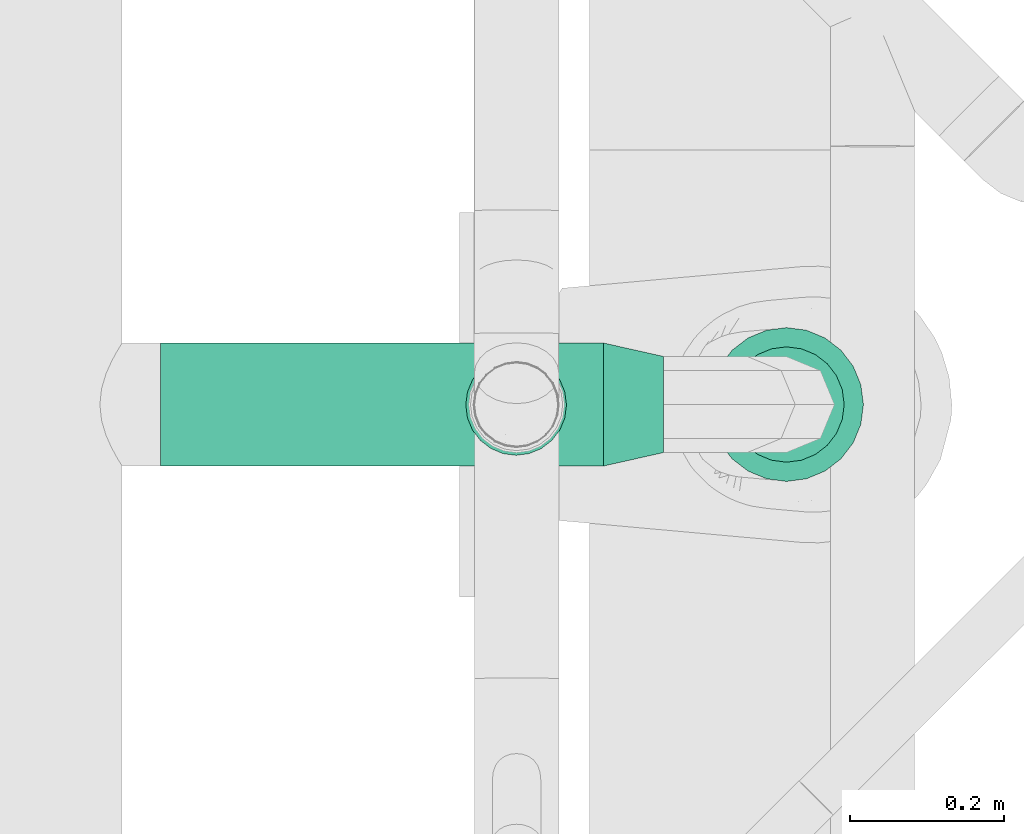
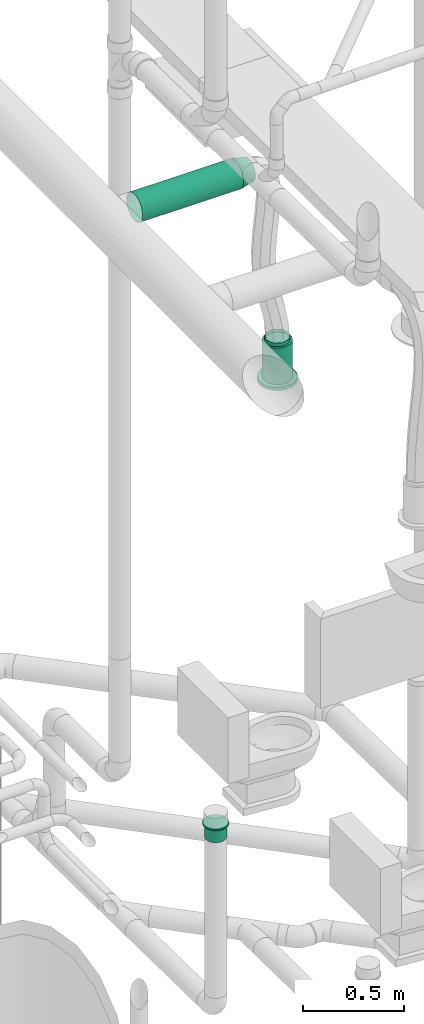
# One storey, part 128 of 374: 2 flow fittings, 1 flow segment, 1 flow terminal.
"""IFC2X3 building model written with IfcOpenShell, lengths in metres."""

from ifc_helpers import new_model, si_unit, direction, origin, place, context, subcontext, project, spatial, open_shell, surface_model, source, transform, mapped, element, save


model = new_model("IFC2X3")

# Units and contexts
model_context = context("Model", 3, precision=1e-05, world=origin(), true_north=direction((-0.4480736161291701, 0.8939966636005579)))
body_context = subcontext(model_context, "Body", "Model", "MODEL_VIEW")
ifc_project = project(units=[si_unit("LENGTHUNIT", "METRE"), si_unit("AREAUNIT", "SQUARE_METRE"), si_unit("VOLUMEUNIT", "CUBIC_METRE"), si_unit("PLANEANGLEUNIT", "RADIAN"), si_unit("THERMODYNAMICTEMPERATUREUNIT", "KELVIN"), si_unit("MASSUNIT", "GRAM", prefix="KILO"), si_unit("TIMEUNIT", "SECOND")], contexts=[model_context])

# Site, building, storey
site_placement = place(None, origin())
site = spatial("IfcSite", under=ifc_project, at=site_placement, Name="Site 1", CompositionType="ELEMENT")
building_placement = place(site_placement, origin())
building = spatial("IfcBuilding", under=site, at=building_placement, Name="Undefined", CompositionType="ELEMENT")
storey_placement = place(building_placement, origin())
storey = spatial("IfcBuildingStorey", under=building, at=storey_placement, Name="Rez de chauss\x8ee", CompositionType="ELEMENT", Elevation=0.0)

# Flow terminal
shared_shape_1 = source(origin(), body_context, "Body", "SurfaceModel", [
    surface_model("IfcFaceBasedSurfaceModel", [(0.0, 0.0, 0.0), (0.026105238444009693, 0.0, 7.105427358e-15), (0.026105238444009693, 0.020000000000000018, 7.105427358e-15), (3.552713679e-15, 0.020000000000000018, 0.0), (0.05132096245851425, 0.0, -0.00675653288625), (0.05132096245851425, 0.020000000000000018, -0.00675653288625), (0.07392876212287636, 0.0, -0.019809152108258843), (0.07392876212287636, 0.020000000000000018, -0.019809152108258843), (0.09238795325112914, 0.0, -0.03826834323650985), (0.09238795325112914, 0.020000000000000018, -0.03826834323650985), (0.10544057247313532, 0.0, -0.06087614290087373), (0.10544057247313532, 0.020000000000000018, -0.06087614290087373), (0.11219710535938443, 0.0, -0.08609186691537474), (0.11219710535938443, 0.020000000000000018, -0.08609186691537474), (0.11219710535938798, 0.0, -0.11219710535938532), (0.11219710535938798, 0.020000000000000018, -0.11219710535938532), (0.10544057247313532, 0.0, -0.13741282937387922), (0.10544057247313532, 0.020000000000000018, -0.13741282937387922), (0.09238795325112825, 0.0, -0.1600206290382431), (0.09238795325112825, 0.020000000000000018, -0.1600206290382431), (0.07392876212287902, 0.0, -0.1784798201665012), (0.07392876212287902, 0.020000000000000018, -0.1784798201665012), (0.05132096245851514, 0.0, -0.19153243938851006), (0.05132096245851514, 0.020000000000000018, -0.19153243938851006), (0.02610523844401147, 0.0, -0.19828897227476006), (0.02610523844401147, 0.020000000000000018, -0.19828897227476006), (0.0, -7.105427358e-15, -0.19828897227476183), (1.776356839e-15, 0.020000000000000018, -0.19828897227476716), (-0.02521572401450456, 0.0, -0.19153243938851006), (-0.02521572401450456, 0.020000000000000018, -0.19153243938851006), (-0.047823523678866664, 0.0, -0.1784798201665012), (-0.047823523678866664, 0.020000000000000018, -0.1784798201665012), (-0.06628271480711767, 0.0, -0.1600206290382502), (-0.06628271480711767, 0.020000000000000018, -0.1600206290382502), (-0.07933533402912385, 0.0, -0.13741282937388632), (-0.07933533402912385, 0.020000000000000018, -0.13741282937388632), (-0.08609186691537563, 0.0, -0.11219710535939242), (-0.08609186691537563, 0.020000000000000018, -0.11219710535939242), (-0.08609186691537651, 0.0, -0.08609186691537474), (-0.08609186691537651, 0.020000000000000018, -0.08609186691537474), (-0.07933533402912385, 0.0, -0.060876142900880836), (-0.07933533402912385, 0.020000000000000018, -0.060876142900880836), (-0.06628271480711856, 0.0, -0.038268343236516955), (-0.06628271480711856, 0.020000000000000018, -0.038268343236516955), (-0.04782352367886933, 0.0, -0.019809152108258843), (-0.04782352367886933, 0.020000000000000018, -0.019809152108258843), (-0.02521572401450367, 0.0, -0.00675653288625), (-0.02521572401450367, 0.020000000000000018, -0.00675653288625), (0.013052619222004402, 0.0, -0.09914448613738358), (0.013052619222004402, 0.020000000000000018, -0.09914448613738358), (0.003263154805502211, 0.020000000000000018, -0.02478612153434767), (0.022842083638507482, 0.020000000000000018, -0.024786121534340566), (0.022842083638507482, 0.2400000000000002, -0.024786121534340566), (0.0032631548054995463, 0.2400000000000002, -0.024786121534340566), (0.04175387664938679, 0.020000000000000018, -0.029853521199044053), (0.04175387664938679, 0.2400000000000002, -0.029853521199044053), (0.058709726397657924, 0.020000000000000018, -0.03964298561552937), (0.058709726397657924, 0.2400000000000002, -0.03964298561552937), (0.07255411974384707, 0.020000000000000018, -0.053487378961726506), (0.07255411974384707, 0.2400000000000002, -0.053487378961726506), (0.08234358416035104, 0.020000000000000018, -0.07044322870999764), (0.08234358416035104, 0.2400000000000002, -0.07044322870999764), (0.08741098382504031, 0.020000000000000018, -0.08935502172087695), (0.08741098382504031, 0.2400000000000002, -0.08935502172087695), (0.08741098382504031, 0.020000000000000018, -0.108933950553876), (0.08741098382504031, 0.2400000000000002, -0.108933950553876), (0.08234358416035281, 0.020000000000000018, -0.12784574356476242), (0.08234358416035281, 0.2400000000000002, -0.12784574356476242), (0.07255411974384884, 0.020000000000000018, -0.14480159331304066), (0.07255411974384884, 0.2400000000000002, -0.14480159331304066), (0.05870972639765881, 0.020000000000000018, -0.15864598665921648), (0.05870972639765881, 0.2400000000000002, -0.15864598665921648), (0.04175387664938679, 0.020000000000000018, -0.1684354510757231), (0.04175387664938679, 0.2400000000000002, -0.1684354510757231), (0.022842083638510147, 0.020000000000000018, -0.1735028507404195), (0.022842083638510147, 0.2400000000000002, -0.1735028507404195), (0.0032631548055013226, 0.020000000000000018, -0.1735028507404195), (0.0032631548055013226, 0.2400000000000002, -0.1735028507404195), (-0.015648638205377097, 0.020000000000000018, -0.168435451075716), (-0.015648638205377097, 0.2400000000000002, -0.168435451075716), (-0.032604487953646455, 0.020000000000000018, -0.1586459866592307), (-0.032604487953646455, 0.2400000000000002, -0.1586459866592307), (-0.0464488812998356, 0.020000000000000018, -0.14480159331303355), (-0.0464488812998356, 0.2400000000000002, -0.14480159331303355), (-0.05623834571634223, 0.020000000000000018, -0.1278457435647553), (-0.05623834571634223, 0.2400000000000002, -0.1278457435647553), (-0.06130574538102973, 0.020000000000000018, -0.10893395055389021), (-0.06130574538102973, 0.2400000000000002, -0.10893395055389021), (-0.06130574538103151, 0.020000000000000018, -0.08935502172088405), (-0.06130574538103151, 0.2400000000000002, -0.08935502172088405), (-0.05623834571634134, 0.020000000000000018, -0.07044322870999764), (-0.05623834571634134, 0.2400000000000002, -0.07044322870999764), (-0.046448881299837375, 0.020000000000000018, -0.0534873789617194), (-0.046448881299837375, 0.2400000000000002, -0.0534873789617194), (-0.03260448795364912, 0.020000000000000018, -0.03964298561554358), (-0.03260448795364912, 0.2400000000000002, -0.03964298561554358), (-0.015648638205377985, 0.020000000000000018, -0.029853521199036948), (-0.015648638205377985, 0.2400000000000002, -0.029853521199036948), (0.013052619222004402, 0.2400000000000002, -0.09914448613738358), (0.004894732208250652, 0.2400000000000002, -0.0371791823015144), (0.02121050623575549, 0.2400000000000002, -0.03717918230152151), (0.02121050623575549, 0.26000000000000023, -0.03717918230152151), (0.004894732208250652, 0.26000000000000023, -0.0371791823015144), (0.03697033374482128, 0.2400000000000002, -0.041402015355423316), (0.03697033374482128, 0.26000000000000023, -0.041402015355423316), (0.05110020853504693, 0.2400000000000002, -0.04955990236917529), (0.05110020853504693, 0.26000000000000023, -0.04955990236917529), (0.06263720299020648, 0.2400000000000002, -0.06109689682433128), (0.06263720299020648, 0.26000000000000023, -0.06109689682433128), (0.070795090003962, 0.2400000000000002, -0.0752267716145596), (0.070795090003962, 0.26000000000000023, -0.0752267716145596), (0.07501792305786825, 0.2400000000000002, -0.0909865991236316), (0.07501792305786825, 0.26000000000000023, -0.0909865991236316), (0.07501792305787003, 0.2400000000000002, -0.10730237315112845), (0.07501792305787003, 0.26000000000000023, -0.10730237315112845), (0.07079509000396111, 0.2400000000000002, -0.12306220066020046), (0.07079509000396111, 0.26000000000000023, -0.12306220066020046), (0.06263720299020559, 0.2400000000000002, -0.13719207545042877), (0.06263720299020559, 0.26000000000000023, -0.13719207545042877), (0.051100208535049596, 0.2400000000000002, -0.14872906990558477), (0.051100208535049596, 0.26000000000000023, -0.14872906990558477), (0.03697033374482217, 0.2400000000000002, -0.15688695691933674), (0.03697033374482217, 0.26000000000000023, -0.15688695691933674), (0.02121050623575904, 0.2400000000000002, -0.16110978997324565), (0.02121050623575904, 0.26000000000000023, -0.16110978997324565), (0.004894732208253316, 0.2400000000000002, -0.16110978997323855), (0.004894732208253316, 0.26000000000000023, -0.16110978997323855), (-0.010865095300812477, 0.2400000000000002, -0.15688695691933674), (-0.010865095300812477, 0.26000000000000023, -0.15688695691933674), (-0.02499497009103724, 0.2400000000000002, -0.14872906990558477), (-0.02499497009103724, 0.26000000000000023, -0.14872906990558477), (-0.03653196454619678, 0.2400000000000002, -0.13719207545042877), (-0.03653196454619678, 0.26000000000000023, -0.13719207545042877), (-0.04468985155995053, 0.2400000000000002, -0.12306220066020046), (-0.04468985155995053, 0.26000000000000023, -0.12306220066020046), (-0.04891268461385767, 0.2400000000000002, -0.10730237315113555), (-0.04891268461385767, 0.26000000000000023, -0.10730237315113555), (-0.04891268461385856, 0.2400000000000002, -0.0909865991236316), (-0.04891268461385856, 0.26000000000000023, -0.0909865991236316), (-0.04468985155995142, 0.2400000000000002, -0.0752267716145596), (-0.04468985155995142, 0.26000000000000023, -0.0752267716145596), (-0.036531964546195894, 0.2400000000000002, -0.06109689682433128), (-0.036531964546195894, 0.26000000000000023, -0.06109689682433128), (-0.02499497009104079, 0.2400000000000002, -0.04955990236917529), (-0.02499497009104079, 0.26000000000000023, -0.04955990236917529), (-0.010865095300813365, 0.2400000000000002, -0.041402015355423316), (-0.010865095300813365, 0.26000000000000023, -0.041402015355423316)], [open_shell([[[0, 1, 2, 3]], [[1, 4, 5, 2]], [[4, 6, 7, 5]], [[6, 8, 9, 7]], [[8, 10, 11, 9]], [[10, 12, 13, 11]], [[12, 14, 15, 13]], [[14, 16, 17, 15]], [[16, 18, 19, 17]], [[18, 20, 21, 19]], [[20, 22, 23, 21]], [[22, 24, 25, 23]], [[24, 26, 27, 25]], [[26, 28, 29, 27]], [[28, 30, 31, 29]], [[30, 32, 33, 31]], [[32, 34, 35, 33]], [[34, 36, 37, 35]], [[36, 38, 39, 37]], [[38, 40, 41, 39]], [[40, 42, 43, 41]], [[42, 44, 45, 43]], [[44, 46, 47, 45]], [[46, 0, 3, 47]], [[48, 1, 0]], [[48, 4, 1]], [[48, 6, 4]], [[48, 8, 6]], [[48, 10, 8]], [[48, 12, 10]], [[48, 14, 12]], [[48, 16, 14]], [[48, 18, 16]], [[48, 20, 18]], [[48, 22, 20]], [[48, 24, 22]], [[48, 26, 24]], [[48, 28, 26]], [[48, 30, 28]], [[48, 32, 30]], [[48, 34, 32]], [[48, 36, 34]], [[48, 38, 36]], [[48, 40, 38]], [[48, 42, 40]], [[48, 44, 42]], [[48, 46, 44]], [[48, 0, 46]], [[49, 47, 3]], [[49, 45, 47]], [[49, 43, 45]], [[49, 41, 43]], [[49, 39, 41]], [[49, 37, 39]], [[49, 35, 37]], [[49, 33, 35]], [[49, 31, 33]], [[49, 29, 31]], [[49, 27, 29]], [[49, 25, 27]], [[49, 23, 25]], [[49, 21, 23]], [[49, 19, 21]], [[49, 17, 19]], [[49, 15, 17]], [[49, 13, 15]], [[49, 11, 13]], [[49, 9, 11]], [[49, 7, 9]], [[49, 5, 7]], [[49, 2, 5]], [[49, 3, 2]], [[50, 51, 52, 53]], [[51, 54, 55, 52]], [[54, 56, 57, 55]], [[56, 58, 59, 57]], [[58, 60, 61, 59]], [[60, 62, 63, 61]], [[62, 64, 65, 63]], [[64, 66, 67, 65]], [[66, 68, 69, 67]], [[68, 70, 71, 69]], [[70, 72, 73, 71]], [[72, 74, 75, 73]], [[74, 76, 77, 75]], [[76, 78, 79, 77]], [[78, 80, 81, 79]], [[80, 82, 83, 81]], [[82, 84, 85, 83]], [[84, 86, 87, 85]], [[86, 88, 89, 87]], [[88, 90, 91, 89]], [[90, 92, 93, 91]], [[92, 94, 95, 93]], [[94, 96, 97, 95]], [[96, 50, 53, 97]], [[49, 51, 50]], [[49, 54, 51]], [[49, 56, 54]], [[49, 58, 56]], [[49, 60, 58]], [[49, 62, 60]], [[49, 64, 62]], [[49, 66, 64]], [[49, 68, 66]], [[49, 70, 68]], [[49, 72, 70]], [[49, 74, 72]], [[49, 76, 74]], [[49, 78, 76]], [[49, 80, 78]], [[49, 82, 80]], [[49, 84, 82]], [[49, 86, 84]], [[49, 88, 86]], [[49, 90, 88]], [[49, 92, 90]], [[49, 94, 92]], [[49, 96, 94]], [[49, 50, 96]], [[98, 97, 53]], [[98, 95, 97]], [[98, 93, 95]], [[98, 91, 93]], [[98, 89, 91]], [[98, 87, 89]], [[98, 85, 87]], [[98, 83, 85]], [[98, 81, 83]], [[98, 79, 81]], [[98, 77, 79]], [[98, 75, 77]], [[98, 73, 75]], [[98, 71, 73]], [[98, 69, 71]], [[98, 67, 69]], [[98, 65, 67]], [[98, 63, 65]], [[98, 61, 63]], [[98, 59, 61]], [[98, 57, 59]], [[98, 55, 57]], [[98, 52, 55]], [[98, 53, 52]], [[99, 100, 101, 102]], [[100, 103, 104, 101]], [[103, 105, 106, 104]], [[105, 107, 108, 106]], [[107, 109, 110, 108]], [[109, 111, 112, 110]], [[111, 113, 114, 112]], [[113, 115, 116, 114]], [[115, 117, 118, 116]], [[117, 119, 120, 118]], [[119, 121, 122, 120]], [[121, 123, 124, 122]], [[123, 125, 126, 124]], [[125, 127, 128, 126]], [[127, 129, 130, 128]], [[129, 131, 132, 130]], [[131, 133, 134, 132]], [[133, 135, 136, 134]], [[135, 137, 138, 136]], [[137, 139, 140, 138]], [[139, 141, 142, 140]], [[141, 143, 144, 142]], [[143, 145, 146, 144]], [[145, 99, 102, 146]]])]),
])
flow_terminal_placement = place(storey_placement, origin())
element("IfcFlowTerminal", 1, at=flow_terminal_placement, inside=storey, Name="Air diffuseur - bouche", ObjectType="Air diffuseur - bouche", context=body_context, shape_type="MappedRepresentation", body=[
    mapped(shared_shape_1, transform((57.324999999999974, 12.812500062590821, 2.48), x_axis=(0.13052619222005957, -0.9914448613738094, 0.0), y_axis=(0.0, 0.0, 1.0), z_axis=(-0.9914448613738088, -0.13052619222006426, 0.0))),
])

# Flow fitting
shared_shape_2 = source(origin(), body_context, "Body", "SurfaceModel", [
    surface_model("IfcFaceBasedSurfaceModel", [(0.0, 0.014357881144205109, -3.552713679e-15), (0.0, 0.0, 0.0), (0.07919999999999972, 4.4408921e-16, 3.552713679e-15), (0.07919999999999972, 0.014357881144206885, 3.552713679e-15), (0.0, -0.01386864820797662, -0.0037160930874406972), (0.07919999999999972, -0.013868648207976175, -0.0037160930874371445), (0.0, -0.026302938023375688, -0.010895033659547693), (0.07919999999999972, -0.026302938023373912, -0.010895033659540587), (0.0, -0.03645549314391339, -0.021047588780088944), (0.07919999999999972, -0.03645549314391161, -0.02104758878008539), (0.0, -0.04363443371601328, -0.033481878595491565), (0.07919999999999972, -0.043634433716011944, -0.03348187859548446), (0.0, -0.04735052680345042, -0.04735052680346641), (0.07919999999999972, -0.04735052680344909, -0.047350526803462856), (0.0, -0.04735052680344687, -0.06170840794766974), (0.07919999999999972, -0.047350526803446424, -0.061708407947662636), (0.0, -0.04363443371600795, -0.07557705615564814), (0.07919999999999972, -0.043634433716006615, -0.07557705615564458), (0.0, -0.03645549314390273, -0.08801134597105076), (0.07919999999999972, -0.036455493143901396, -0.08801134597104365), (0.0, -0.026302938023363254, -0.0981639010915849), (0.07919999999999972, -0.026302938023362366, -0.09816390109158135), (0.0, -0.013868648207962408, -0.1053428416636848), (0.07919999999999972, -0.01386864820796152, -0.10534284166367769), (0.0, 1.5987211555e-14, -0.10905893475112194), (0.07919999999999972, 1.6875389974e-14, -0.10905893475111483), (0.0, 0.014357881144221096, -0.10905893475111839), (0.07919999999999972, 0.014357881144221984, -0.10905893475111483), (0.0, 0.028226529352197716, -0.10534284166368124), (0.07919999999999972, 0.028226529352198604, -0.10534284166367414), (0.0, 0.040660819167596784, -0.0981639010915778), (0.07919999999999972, 0.04066081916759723, -0.0981639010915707), (0.0, 0.05081337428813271, -0.08801134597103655), (0.07919999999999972, 0.05081337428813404, -0.08801134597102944), (0.0, 0.05799231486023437, -0.07557705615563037), (0.07919999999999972, 0.05799231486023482, -0.07557705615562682), (0.0, 0.06170840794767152, -0.06170840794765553), (0.07919999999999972, 0.06170840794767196, -0.06170840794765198), (0.0, 0.061708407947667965, -0.0473505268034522), (0.07919999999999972, 0.0617084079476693, -0.047350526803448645), (0.0, 0.05799231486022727, -0.033481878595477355), (0.07919999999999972, 0.057992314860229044, -0.03348187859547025), (0.0, 0.050813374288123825, -0.021047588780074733), (0.07919999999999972, 0.05081337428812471, -0.021047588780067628), (0.0, 0.04066081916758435, -0.010895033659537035), (0.07919999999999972, 0.040660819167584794, -0.010895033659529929), (0.0, 0.028226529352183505, -0.0037160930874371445), (0.07919999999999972, 0.02822652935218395, -0.003716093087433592), (0.07919999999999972, 0.01572840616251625, 0.010410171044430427), (0.07919999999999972, -0.0013705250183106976, 0.010410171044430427), (0.08800000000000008, -0.0013705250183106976, 0.010410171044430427), (0.08800000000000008, 0.01572840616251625, 0.010410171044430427), (0.07919999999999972, -0.017886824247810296, 0.005984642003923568), (0.08800000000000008, -0.017886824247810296, 0.005984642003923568), (0.07919999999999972, -0.032694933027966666, -0.0025648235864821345), (0.08800000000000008, -0.032694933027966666, -0.0025648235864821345), (0.07919999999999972, -0.04478570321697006, -0.01465559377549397), (0.08800000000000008, -0.04478570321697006, -0.01465559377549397), (0.07919999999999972, -0.05333516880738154, -0.02946370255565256), (0.08800000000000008, -0.05333516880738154, -0.02946370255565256), (0.07919999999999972, -0.05776069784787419, -0.04598000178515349), (0.08800000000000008, -0.05776069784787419, -0.04598000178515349), (0.07919999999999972, -0.05776069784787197, -0.0630789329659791), (0.08800000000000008, -0.05776069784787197, -0.0630789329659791), (0.07919999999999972, -0.05333516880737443, -0.07959523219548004), (0.08800000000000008, -0.05333516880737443, -0.07959523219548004), (0.07919999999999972, -0.04478570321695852, -0.09440334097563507), (0.08800000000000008, -0.04478570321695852, -0.09440334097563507), (0.07919999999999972, -0.03269493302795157, -0.1064941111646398), (0.08800000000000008, -0.03269493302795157, -0.1064941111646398), (0.07919999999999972, -0.017886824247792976, -0.11504357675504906), (0.08800000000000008, -0.017886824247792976, -0.11504357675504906), (0.07919999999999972, -0.0013705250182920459, -0.11946910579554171), (0.08800000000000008, -0.0013705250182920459, -0.11946910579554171), (0.07919999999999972, 0.01572840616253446, -0.11946910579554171), (0.08800000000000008, 0.01572840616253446, -0.11946910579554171), (0.07919999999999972, 0.03224470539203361, -0.11504357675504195), (0.08800000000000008, 0.03224470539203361, -0.11504357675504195), (0.07919999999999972, 0.04705281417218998, -0.10649411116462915), (0.08800000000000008, 0.04705281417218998, -0.10649411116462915), (0.07919999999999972, 0.05914358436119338, -0.09440334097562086), (0.08800000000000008, 0.05914358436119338, -0.09440334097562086), (0.07919999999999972, 0.06769304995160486, -0.07959523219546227), (0.08800000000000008, 0.06769304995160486, -0.07959523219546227), (0.07919999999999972, 0.07211857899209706, -0.06307893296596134), (0.08800000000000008, 0.07211857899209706, -0.06307893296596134), (0.07919999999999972, 0.07211857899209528, -0.04598000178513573), (0.08800000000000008, 0.07211857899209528, -0.04598000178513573), (0.07919999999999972, 0.06769304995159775, -0.029463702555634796), (0.08800000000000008, 0.06769304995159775, -0.029463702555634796), (0.07919999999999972, 0.059143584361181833, -0.014655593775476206), (0.08800000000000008, 0.059143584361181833, -0.014655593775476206), (0.07919999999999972, 0.047052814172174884, -0.0025648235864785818), (0.08800000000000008, 0.047052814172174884, -0.0025648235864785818), (0.07919999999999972, 0.03224470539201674, 0.005984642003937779), (0.08800000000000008, 0.03224470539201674, 0.005984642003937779), (0.07919999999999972, 0.00717894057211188, -0.05452946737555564), (0.08800000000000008, 0.00717894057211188, -0.05452946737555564)], [open_shell([[[0, 1, 2, 3]], [[1, 4, 5, 2]], [[4, 6, 7, 5]], [[6, 8, 9, 7]], [[8, 10, 11, 9]], [[10, 12, 13, 11]], [[12, 14, 15, 13]], [[14, 16, 17, 15]], [[16, 18, 19, 17]], [[18, 20, 21, 19]], [[20, 22, 23, 21]], [[22, 24, 25, 23]], [[24, 26, 27, 25]], [[26, 28, 29, 27]], [[28, 30, 31, 29]], [[30, 32, 33, 31]], [[32, 34, 35, 33]], [[34, 36, 37, 35]], [[36, 38, 39, 37]], [[38, 40, 41, 39]], [[40, 42, 43, 41]], [[42, 44, 45, 43]], [[44, 46, 47, 45]], [[46, 0, 3, 47]], [[48, 49, 50, 51]], [[49, 52, 53, 50]], [[52, 54, 55, 53]], [[54, 56, 57, 55]], [[56, 58, 59, 57]], [[58, 60, 61, 59]], [[60, 62, 63, 61]], [[62, 64, 65, 63]], [[64, 66, 67, 65]], [[66, 68, 69, 67]], [[68, 70, 71, 69]], [[70, 72, 73, 71]], [[72, 74, 75, 73]], [[74, 76, 77, 75]], [[76, 78, 79, 77]], [[78, 80, 81, 79]], [[80, 82, 83, 81]], [[82, 84, 85, 83]], [[84, 86, 87, 85]], [[86, 88, 89, 87]], [[88, 90, 91, 89]], [[90, 92, 93, 91]], [[92, 94, 95, 93]], [[94, 48, 51, 95]], [[96, 49, 48]], [[96, 52, 49]], [[96, 54, 52]], [[96, 56, 54]], [[96, 58, 56]], [[96, 60, 58]], [[96, 62, 60]], [[96, 64, 62]], [[96, 66, 64]], [[96, 68, 66]], [[96, 70, 68]], [[96, 72, 70]], [[96, 74, 72]], [[96, 76, 74]], [[96, 78, 76]], [[96, 80, 78]], [[96, 82, 80]], [[96, 84, 82]], [[96, 86, 84]], [[96, 88, 86]], [[96, 90, 88]], [[96, 92, 90]], [[96, 94, 92]], [[96, 48, 94]], [[97, 95, 51]], [[97, 93, 95]], [[97, 91, 93]], [[97, 89, 91]], [[97, 87, 89]], [[97, 85, 87]], [[97, 83, 85]], [[97, 81, 83]], [[97, 79, 81]], [[97, 77, 79]], [[97, 75, 77]], [[97, 73, 75]], [[97, 71, 73]], [[97, 69, 71]], [[97, 67, 69]], [[97, 65, 67]], [[97, 63, 65]], [[97, 61, 63]], [[97, 59, 61]], [[97, 57, 59]], [[97, 55, 57]], [[97, 53, 55]], [[97, 50, 53]], [[97, 51, 50]]])]),
])
flow_fitting_1_placement = place(storey_placement, origin())
element("IfcFlowFitting", 2, at=flow_fitting_1_placement, inside=storey, Name="PE-HD manchon à emboiter", ObjectType="PE-HD manchon à emboiter", context=body_context, shape_type="MappedRepresentation", body=[
    mapped(shared_shape_2, transform((57.02026578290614, 12.797656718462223, -0.1505), x_axis=(0.0, 0.0, 1.0), y_axis=(-0.13052619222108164, 0.9914448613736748, 0.0), z_axis=(-0.9914448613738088, -0.13052619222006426, 0.0))),
])

# Flow segment
shared_shape_3 = source(origin(), body_context, "Body", "SurfaceModel", [
    surface_model("IfcFaceBasedSurfaceModel", [(0.0, 0.020884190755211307, 0.0), (0.0, 0.0, 0.0), (0.5759490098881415, -1.776356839e-15, 0.0), (0.5759490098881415, 0.020884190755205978, 0.0), (0.0, -0.020172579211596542, -0.005405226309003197), (0.5759490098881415, -0.020172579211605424, -0.005405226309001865), (0.0, -0.03825881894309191, -0.015847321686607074), (0.5759490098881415, -0.038258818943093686, -0.015847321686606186), (0.0, -0.05302617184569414, -0.0306146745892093), (0.5759490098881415, -0.05302617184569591, -0.030614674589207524), (0.0, -0.06346826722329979, -0.04870091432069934), (0.5759490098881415, -0.06346826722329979, -0.04870091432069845), (0.0, -0.06887349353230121, -0.06887349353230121), (0.5759490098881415, -0.06887349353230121, -0.06887349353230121), (0.0, -0.06887349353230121, -0.08975768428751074), (0.5759490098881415, -0.06887349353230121, -0.08975768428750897), (0.0, -0.06346826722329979, -0.10993026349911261), (0.5759490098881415, -0.06346826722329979, -0.10993026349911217), (0.0, -0.05302617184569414, -0.12801650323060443), (0.5759490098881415, -0.05302617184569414, -0.12801650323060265), (0.0, -0.038258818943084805, -0.14278385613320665), (0.5759490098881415, -0.038258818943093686, -0.14278385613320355), (0.0, -0.020172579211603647, -0.15322595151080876), (0.5759490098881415, -0.020172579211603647, -0.15322595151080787), (0.0, 7.105427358e-15, -0.15863117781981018), (0.5759490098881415, -1.776356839e-15, -0.1586311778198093), (0.0, 0.020884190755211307, -0.15863117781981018), (0.5759490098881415, 0.020884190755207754, -0.1586311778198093), (0.0, 0.04105676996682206, -0.15322595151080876), (0.5759490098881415, 0.0410567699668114, -0.15322595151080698), (0.0, 0.05914300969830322, -0.1427838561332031), (0.5759490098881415, 0.05914300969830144, -0.1427838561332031), (0.0, 0.07391036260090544, -0.12801650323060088), (0.5759490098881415, 0.07391036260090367, -0.12801650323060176), (0.0, 0.0843524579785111, -0.10993026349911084), (0.5759490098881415, 0.08435245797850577, -0.10993026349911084), (0.0, 0.08975768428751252, -0.08975768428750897), (0.5759490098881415, 0.08975768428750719, -0.08975768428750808), (0.0, 0.08975768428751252, -0.06887349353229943), (0.5759490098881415, 0.08975768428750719, -0.06887349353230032), (0.0, 0.0843524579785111, -0.048700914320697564), (0.5759490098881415, 0.08435245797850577, -0.04870091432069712), (0.0, 0.07391036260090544, -0.030614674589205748), (0.5759490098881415, 0.07391036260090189, -0.030614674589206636), (0.0, 0.05914300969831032, -0.015847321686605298), (0.5759490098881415, 0.059143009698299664, -0.015847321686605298), (0.0, 0.04105676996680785, -0.005405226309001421), (0.5759490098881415, 0.041056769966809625, -0.005405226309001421)], [open_shell([[[0, 1, 2, 3]], [[1, 4, 5, 2]], [[4, 6, 7, 5]], [[6, 8, 9, 7]], [[8, 10, 11, 9]], [[10, 12, 13, 11]], [[12, 14, 15, 13]], [[14, 16, 17, 15]], [[16, 18, 19, 17]], [[18, 20, 21, 19]], [[20, 22, 23, 21]], [[22, 24, 25, 23]], [[24, 26, 27, 25]], [[26, 28, 29, 27]], [[28, 30, 31, 29]], [[30, 32, 33, 31]], [[32, 34, 35, 33]], [[34, 36, 37, 35]], [[36, 38, 39, 37]], [[38, 40, 41, 39]], [[40, 42, 43, 41]], [[42, 44, 45, 43]], [[44, 46, 47, 45]], [[46, 0, 3, 47]]])]),
])
flow_segment_placement = place(storey_placement, origin())
element("IfcFlowSegment", 3, at=flow_segment_placement, inside=storey, Name="Tube", ObjectType="Tube", context=body_context, shape_type="MappedRepresentation", body=[
    mapped(shared_shape_3, transform((56.61105099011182, 12.79179453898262, 3.877274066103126), x_axis=(1.0, 0.0, 0.0), y_axis=(0.0, 0.9914448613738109, 0.1305261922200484), z_axis=(0.0, -0.1305261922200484, 0.9914448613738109))),
])

# Flow fitting
shared_shape_4 = source(origin(), body_context, "Body", "SurfaceModel", [
    surface_model("IfcFaceBasedSurfaceModel", [(0.07993903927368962, 0.0, 0.0), (0.08040525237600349, 0.016309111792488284, 0.0), (0.0005967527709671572, 0.020875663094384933, 0.0), (0.0, 0.0, 0.0), (0.08177212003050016, 0.03203630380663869, -0.004122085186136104), (0.002346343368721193, 0.041006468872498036, -0.005276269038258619), (0.08394649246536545, 0.04610979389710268, -0.01208534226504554), (0.005129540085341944, 0.05902053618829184, -0.015469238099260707), (0.08678018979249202, 0.057570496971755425, -0.02334708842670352), (0.008756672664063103, 0.07369023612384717, -0.029884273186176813), (0.09008010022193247, 0.065637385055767, -0.03713985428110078), (0.012980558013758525, 0.08401585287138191, -0.04753901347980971), (0.09362134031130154, 0.06976071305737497, -0.05252368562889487), (0.017513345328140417, 0.08929371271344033, -0.06723031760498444), (0.0971625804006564, 0.06965948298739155, -0.06845019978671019), (0.022046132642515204, 0.08916413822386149, -0.08761625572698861), (0.10046249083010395, 0.06534059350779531, -0.08383403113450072), (0.026270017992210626, 0.08363595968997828, -0.10730755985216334), (0.10329618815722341, 0.05709836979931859, -0.09762679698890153), (0.029897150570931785, 0.07308591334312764, -0.12496230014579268), (0.10547056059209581, 0.04549450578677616, -0.10888854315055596), (0.032680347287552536, 0.058232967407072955, -0.13937733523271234), (0.10683742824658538, 0.031319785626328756, -0.1168518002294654), (0.03442993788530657, 0.040089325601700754, -0.14957030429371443), (0.10730364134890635, 0.015540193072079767, -0.12097388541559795), (0.035026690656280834, 0.019891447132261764, -0.1548465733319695), (0.10683742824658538, -0.0007689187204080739, -0.1209738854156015), (0.03442993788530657, -0.0009842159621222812, -0.15484657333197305), (0.10547056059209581, -0.016496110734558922, -0.11685180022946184), (0.03268034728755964, -0.02111502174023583, -0.14957030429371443), (0.10329618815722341, -0.030569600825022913, -0.10888854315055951), (0.029897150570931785, -0.03912908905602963, -0.13937733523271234), (0.10046249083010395, -0.042030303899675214, -0.09762679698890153), (0.02627001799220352, -0.05379878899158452, -0.12496230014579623), (0.0971625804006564, -0.05009719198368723, -0.08383403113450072), (0.022046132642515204, -0.0641244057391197, -0.10730755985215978), (0.09362134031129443, -0.0542205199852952, -0.06845019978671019), (0.017513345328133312, -0.06940226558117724, -0.08761625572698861), (0.09008010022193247, -0.054119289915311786, -0.05252368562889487), (0.01298055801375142, -0.06927269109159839, -0.06723031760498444), (0.08678018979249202, -0.04980040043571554, -0.037139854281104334), (0.008756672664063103, -0.06374451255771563, -0.04753901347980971), (0.08394649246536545, -0.04155817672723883, -0.02334708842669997), (0.005129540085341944, -0.05319446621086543, -0.029884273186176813), (0.08177212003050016, -0.029954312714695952, -0.012085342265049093), (0.0023463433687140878, -0.0383415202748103, -0.015469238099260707), (0.08040525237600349, -0.01577959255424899, -0.004122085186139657), (0.0005967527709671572, -0.020197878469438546, -0.005276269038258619)], [open_shell([[[0, 1, 2, 3]], [[1, 4, 5, 2]], [[4, 6, 7, 5]], [[6, 8, 9, 7]], [[8, 10, 11, 9]], [[10, 12, 13, 11]], [[12, 14, 15, 13]], [[14, 16, 17, 15]], [[16, 18, 19, 17]], [[18, 20, 21, 19]], [[20, 22, 23, 21]], [[22, 24, 25, 23]], [[24, 26, 27, 25]], [[26, 28, 29, 27]], [[28, 30, 31, 29]], [[30, 32, 33, 31]], [[32, 34, 35, 33]], [[34, 36, 37, 35]], [[36, 38, 39, 37]], [[38, 40, 41, 39]], [[40, 42, 43, 41]], [[42, 44, 45, 43]], [[44, 46, 47, 45]], [[46, 0, 3, 47]]])]),
])
flow_fitting_2_placement = place(storey_placement, origin())
element("IfcFlowFitting", 4, at=flow_fitting_2_placement, inside=storey, Name="Réduction conique", ObjectType="Réduction conique", context=body_context, shape_type="MappedRepresentation", body=[
    mapped(shared_shape_4, transform((57.18699999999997, 12.892500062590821, 3.8000000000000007), x_axis=(0.9757435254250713, -0.2189168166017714, 0.0), y_axis=(-0.02789265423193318, -0.12432154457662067, -0.9918498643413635), z_axis=(0.2171326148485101, 0.9677910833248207, -0.12741211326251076))),
])

save(model, "model.ifc")
